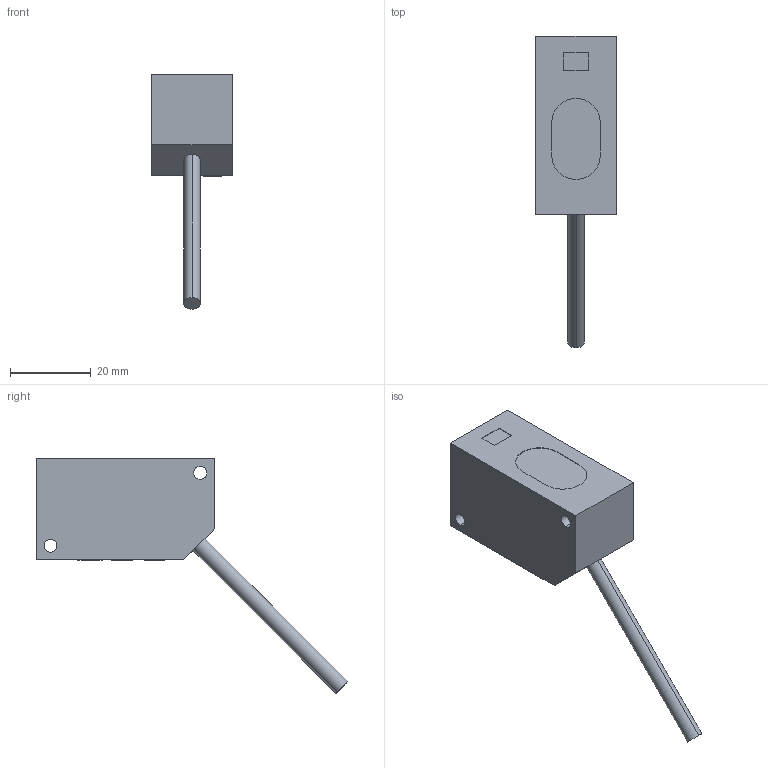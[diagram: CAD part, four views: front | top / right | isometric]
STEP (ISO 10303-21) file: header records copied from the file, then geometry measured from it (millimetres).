
FILE_DESCRIPTION (( 'STEP AP203' ), '1' );
FILE_NAME ('hg-c1030.STEP', '2014-03-25T03:35:54', ( '' ), ( '' ), 'SwSTEP 2.0', 'SolidWorks 2010', '' );
FILE_SCHEMA (( 'CONFIG_CONTROL_DESIGN' ));
Length unit declared in the file: millimetre
Products named in the file (1): hg-c1030
Bounding box: 20 x 76.98 x 57.98 mm (x, y, z)
Volume: 21721.8 mm3; surface area: 5848.2 mm2
Topology: 1 solids, 1 shells, 80 faces, 198 edges, 132 vertices
Faces by surface type: plane 61, cylinder 19
Entity records: 2445 total; most frequent: CARTESIAN_POINT 411, DIRECTION 398, ORIENTED_EDGE 396, EDGE_CURVE 198, LINE 160, VECTOR 160, VERTEX_POINT 132, AXIS2_PLACEMENT_3D 119
